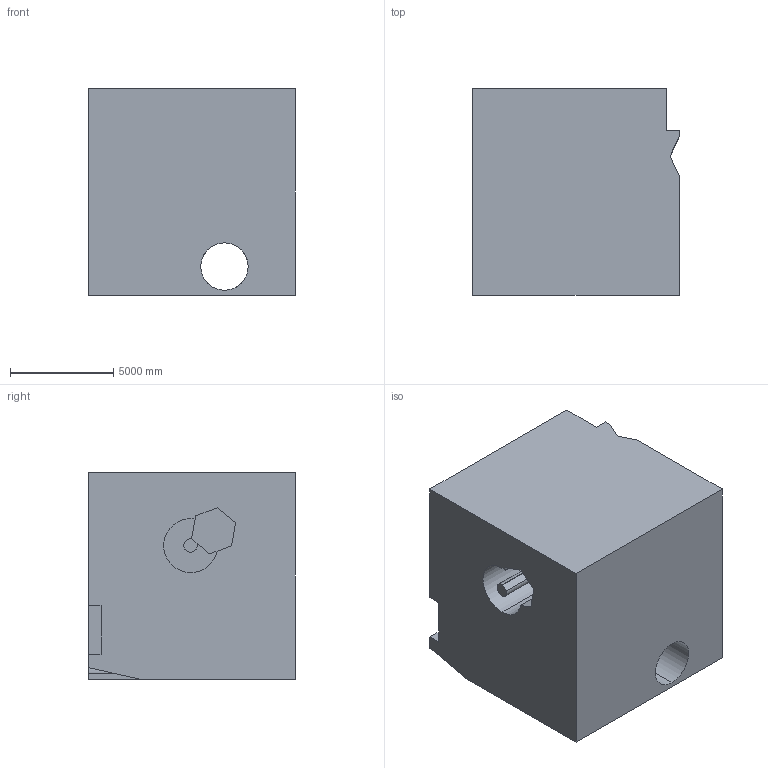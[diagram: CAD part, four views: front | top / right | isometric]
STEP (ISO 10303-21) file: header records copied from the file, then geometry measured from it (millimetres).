
FILE_DESCRIPTION (( 'STEP AP203' ), '1' );
FILE_NAME ('61.STEP', '2022-09-01T14:20:25', ( 'user' ), ( '' ), 'SwSTEP 2.0', 'SolidWorks 2021', '' );
FILE_SCHEMA (( 'CONFIG_CONTROL_DESIGN' ));
Length unit declared in the file: centimetre
Products named in the file (1): 61
Bounding box: 10000 x 10000 x 10000 mm (x, y, z)
Volume: 893890562539.4 mm3; surface area: 728377666 mm2
Topology: 1 solids, 1 shells, 34 faces, 95 edges, 63 vertices
Faces by surface type: plane 26, cylinder 8
Entity records: 1168 total; most frequent: CARTESIAN_POINT 199, ORIENTED_EDGE 190, DIRECTION 179, EDGE_CURVE 95, VECTOR 77, LINE 77, VERTEX_POINT 63, AXIS2_PLACEMENT_3D 51
